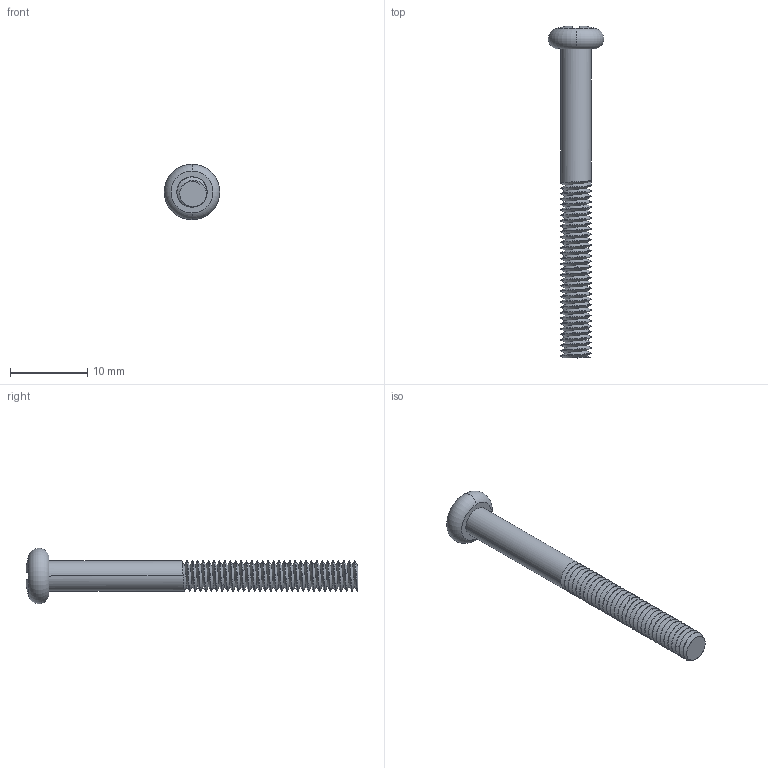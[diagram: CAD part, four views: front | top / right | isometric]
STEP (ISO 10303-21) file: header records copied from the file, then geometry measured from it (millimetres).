
FILE_DESCRIPTION (( 'STEP AP214' ), '1' );
FILE_NAME ('LOS-52.step', '2025-12-23T15:53:16', ( '' ), ( '' ), 'SwSTEP 2.0', 'SolidWorks 2026', '' );
FILE_SCHEMA (( 'AUTOMOTIVE_DESIGN' ));
Length unit declared in the file: inch
Products named in the file (1): LOS-52
Bounding box: 7.18 x 42.94 x 7.18 mm (x, y, z)
Volume: 489.5 mm3; surface area: 818.8 mm2
Topology: 1 solids, 1 shells, 119 faces, 322 edges, 206 vertices
Faces by surface type: cylinder 74, plane 19, bspline 18, cone 4, torus 4
Entity records: 11736 total; most frequent: CARTESIAN_POINT 9142, ORIENTED_EDGE 644, DIRECTION 358, EDGE_CURVE 322, VERTEX_POINT 206, B_SPLINE_CURVE_WITH_KNOTS 191, AXIS2_PLACEMENT_3D 125, EDGE_LOOP 120
